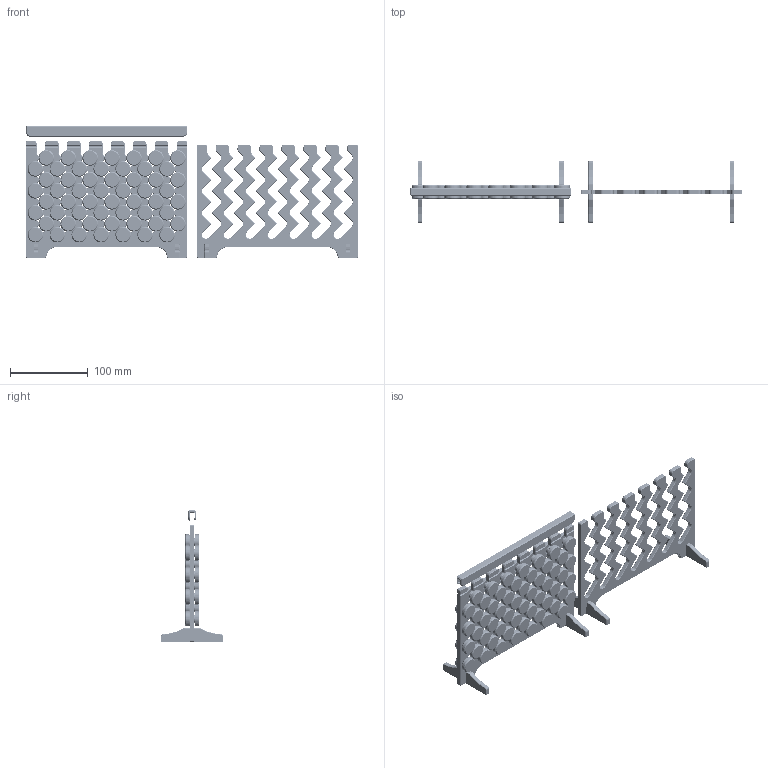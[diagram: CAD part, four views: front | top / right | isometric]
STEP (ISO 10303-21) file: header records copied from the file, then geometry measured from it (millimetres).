
FILE_DESCRIPTION(/* description */ (''),/* implementation_level */ '2;1');
FILE_NAME(/* name */ '',/* time_stamp */ '',/* author */ (''),/* organization */ (''),/* preprocessor_version */ 'ST-DEVELOPER v20',/* originating_system */ 'Autodesk Translation Framework v13.20.0.188',/* authorisation */ '');
FILE_SCHEMA (('AUTOMOTIVE_DESIGN { 1 0 10303 214 3 1 1 }'));
Products named in the file (1): Connect 4 Diagonal
Bounding box: 427.85 x 80.1 x 170.14 mm (x, y, z)
Volume: 470589.6 mm3; surface area: 257670.3 mm2
Topology: 119 solids, 119 shells, 4400 faces, 10058 edges, 6176 vertices
Faces by surface type: plane 1564, cylinder 1544, cone 1068, bspline 224
Full cylindrical faces by diameter (mm): 1 x56, 4.744 x111, 5.035 x112, 5.684 x72, 6.147 x168, 10 x112, 20 x112
Entity records: 212692 total; most frequent: CARTESIAN_POINT 116981, ORIENTED_EDGE 20116, DIRECTION 18828, EDGE_CURVE 10058, AXIS2_PLACEMENT_3D 6949, VERTEX_POINT 6176, LINE 4930, VECTOR 4930
